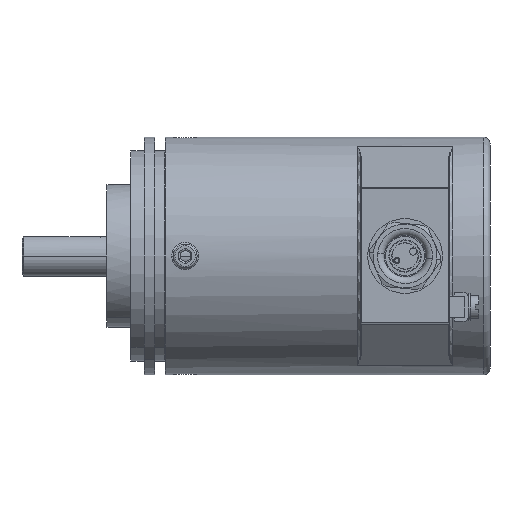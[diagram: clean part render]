
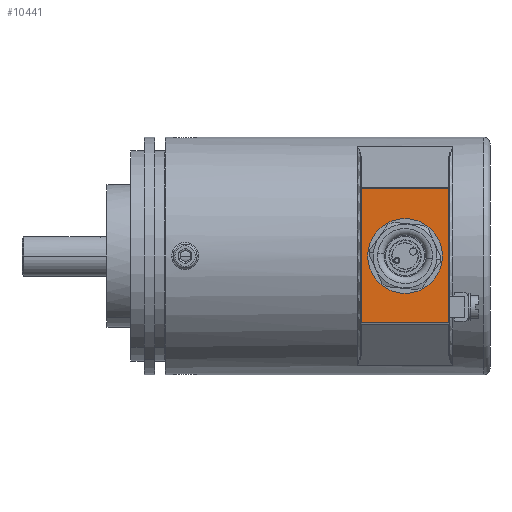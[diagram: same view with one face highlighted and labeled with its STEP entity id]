
A CAD part, front view. The second image highlights one B-rep face of the part: STEP entity #10441.
In plain terms, the highlighted planar face has unit normal (0, -1, 0).
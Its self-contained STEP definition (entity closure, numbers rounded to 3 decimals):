
#578 = LINE ( 'NONE', #12650, #3815 ) ;
#639 = CIRCLE ( 'NONE', #7063, 8.25 ) ;
#1019 = CARTESIAN_POINT ( 'NONE',  ( 80.7, -131.215, 268.191 ) ) ;
#1458 = ORIENTED_EDGE ( 'NONE', *, *, #15519, .T. ) ;
#2209 = DIRECTION ( 'NONE',  ( 0., 0., -1. ) ) ;
#2917 = VECTOR ( 'NONE', #2209, 1000. ) ;
#3081 = EDGE_LOOP ( 'NONE', ( #5609, #8723 ) ) ;
#3129 = FACE_BOUND ( 'NONE', #3081, .T. ) ;
#3701 = ORIENTED_EDGE ( 'NONE', *, *, #6413, .T. ) ;
#3755 = DIRECTION ( 'NONE',  ( 0., -1., 0. ) ) ;
#3815 = VECTOR ( 'NONE', #5752, 1000. ) ;
#3821 = CARTESIAN_POINT ( 'NONE',  ( 67.7, -131.215, 248.562 ) ) ;
#4001 = DIRECTION ( 'NONE',  ( 0., 0., -1. ) ) ;
#4088 = VECTOR ( 'NONE', #12020, 1000. ) ;
#4548 = DIRECTION ( 'NONE',  ( 0., 0., 1. ) ) ;
#4567 = VERTEX_POINT ( 'NONE', #5379 ) ;
#5057 = EDGE_CURVE ( 'NONE', #14431, #9823, #6248, .T. ) ;
#5180 = VERTEX_POINT ( 'NONE', #7227 ) ;
#5379 = CARTESIAN_POINT ( 'NONE',  ( 80.7, -131.215, 276.441 ) ) ;
#5422 = CIRCLE ( 'NONE', #11144, 8.25 ) ;
#5609 = ORIENTED_EDGE ( 'NONE', *, *, #13285, .F. ) ;
#5634 = CARTESIAN_POINT ( 'NONE',  ( 93.5, -131.215, 287.991 ) ) ;
#5713 = CARTESIAN_POINT ( 'NONE',  ( 67.9, -131.215, 287.991 ) ) ;
#5752 = DIRECTION ( 'NONE',  ( -1., 0., 0. ) ) ;
#5794 = CARTESIAN_POINT ( 'NONE',  ( 93.5, -131.215, 248.562 ) ) ;
#6248 = LINE ( 'NONE', #3821, #4088 ) ;
#6413 = EDGE_CURVE ( 'NONE', #10442, #12094, #578, .T. ) ;
#7063 = AXIS2_PLACEMENT_3D ( 'NONE', #1019, #3755, #14410 ) ;
#7211 = AXIS2_PLACEMENT_3D ( 'NONE', #11512, #12426, #14777 ) ;
#7227 = CARTESIAN_POINT ( 'NONE',  ( 80.7, -131.215, 259.941 ) ) ;
#8723 = ORIENTED_EDGE ( 'NONE', *, *, #11135, .F. ) ;
#9295 = VECTOR ( 'NONE', #4548, 1000. ) ;
#9480 = CARTESIAN_POINT ( 'NONE',  ( 67.9, -131.215, 248.191 ) ) ;
#9777 = EDGE_CURVE ( 'NONE', #12094, #14431, #11473, .T. ) ;
#9823 = VERTEX_POINT ( 'NONE', #5794 ) ;
#10441 = ADVANCED_FACE ( 'NONE', ( #15725, #3129 ), #15100, .T. ) ;
#10442 = VERTEX_POINT ( 'NONE', #5634 ) ;
#10810 = EDGE_LOOP ( 'NONE', ( #3701, #15412, #15199, #1458 ) ) ;
#11135 = EDGE_CURVE ( 'NONE', #4567, #5180, #5422, .T. ) ;
#11144 = AXIS2_PLACEMENT_3D ( 'NONE', #12477, #13755, #4001 ) ;
#11197 = CARTESIAN_POINT ( 'NONE',  ( 67.9, -131.215, 248.562 ) ) ;
#11473 = LINE ( 'NONE', #9480, #2917 ) ;
#11512 = CARTESIAN_POINT ( 'NONE',  ( 67.7, -131.215, 288.191 ) ) ;
#11704 = CARTESIAN_POINT ( 'NONE',  ( 93.5, -131.215, 288.191 ) ) ;
#12020 = DIRECTION ( 'NONE',  ( 1., 0., 0. ) ) ;
#12094 = VERTEX_POINT ( 'NONE', #5713 ) ;
#12426 = DIRECTION ( 'NONE',  ( 0., -1., 0. ) ) ;
#12477 = CARTESIAN_POINT ( 'NONE',  ( 80.7, -131.215, 268.191 ) ) ;
#12650 = CARTESIAN_POINT ( 'NONE',  ( 67.7, -131.215, 287.991 ) ) ;
#13285 = EDGE_CURVE ( 'NONE', #5180, #4567, #639, .T. ) ;
#13755 = DIRECTION ( 'NONE',  ( 0., -1., 0. ) ) ;
#14410 = DIRECTION ( 'NONE',  ( 0., 0., -1. ) ) ;
#14431 = VERTEX_POINT ( 'NONE', #11197 ) ;
#14777 = DIRECTION ( 'NONE',  ( 0., 0., -1. ) ) ;
#15039 = LINE ( 'NONE', #11704, #9295 ) ;
#15100 = PLANE ( 'NONE',  #7211 ) ;
#15199 = ORIENTED_EDGE ( 'NONE', *, *, #5057, .T. ) ;
#15412 = ORIENTED_EDGE ( 'NONE', *, *, #9777, .T. ) ;
#15519 = EDGE_CURVE ( 'NONE', #9823, #10442, #15039, .T. ) ;
#15725 = FACE_OUTER_BOUND ( 'NONE', #10810, .T. ) ;
